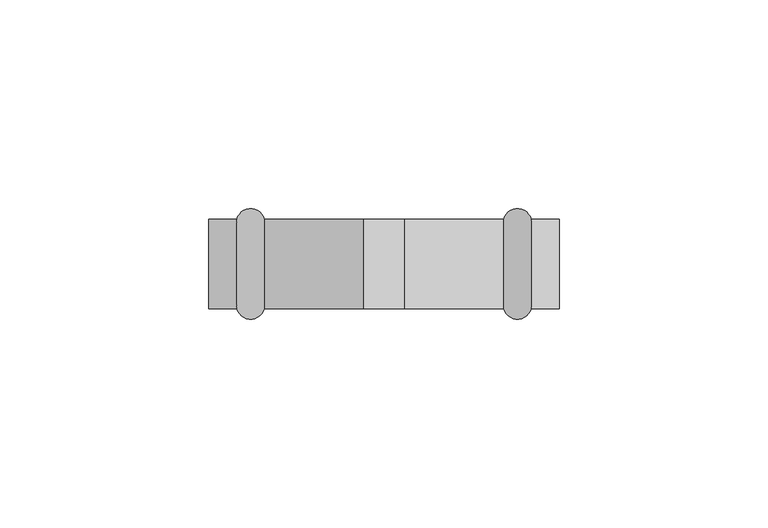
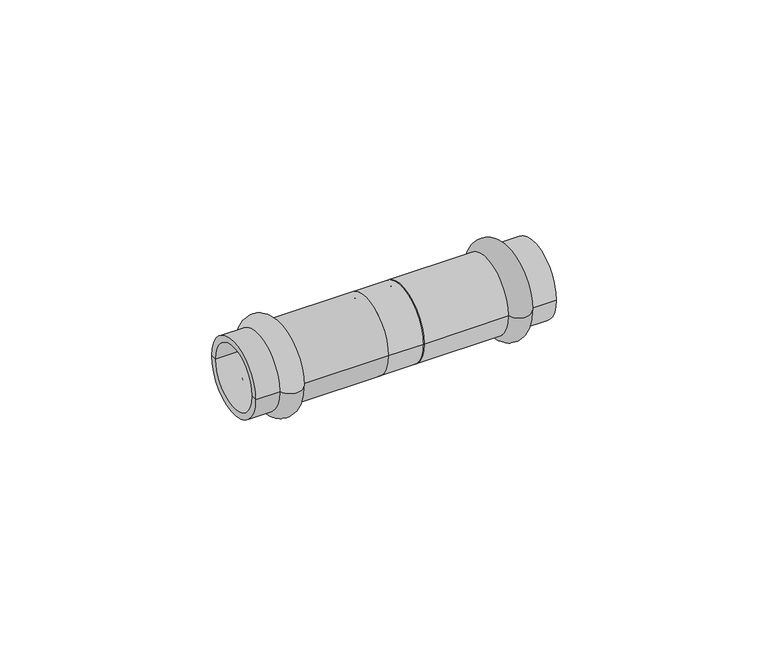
"""IFC4 building model written with IfcOpenShell, lengths in millimetres: pipe fitting geometry, VALTEC_VTi.904.I_Удлинитель_Нержавеющая сталь : VTi.904.I."""

from ifc_helpers import new_model, si_unit, point, frame, origin, origin_2d, place, context, project, spatial, polyline, circle_curve, ellipse_curve, trimmed, segment, composite_curve, outline, extrude, source, transform, mapped, element, save
from ifc_brep_helpers import plane_surface, cylinder_surface, revolved_surface, advanced_brep


def pipe_fitting_2a517387(model_context):
    return source(origin(), model_context, "Body", "SolidModel", [
        advanced_brep(
        [(35.2287193, -10.75, 0.0), (28.6712807, -10.75, 0.0), (28.6712807, 10.75, 0.0), (35.2287193, 10.75, 0.0), (42.0, -10.75, 0.0), (42.0, 10.75, 0.0), (42.0, -9.0, 0.0), (42.0, 9.0, 0.0), (5.0, -9.0, 0.0), (5.0, 9.0, 0.0), (5.0, -10.75, 0.0), (5.0, 10.75, 0.0)],
        [
            (0, 1, circle_curve(frame((31.95, -9.85, 0.0), z_axis=(0.0, 0.0, -1.0), x_axis=(-1.0, 0.0, 0.0)), 3.4)),
            (1, 2, circle_curve(frame((28.6712807, 0.0, 0.0), z_axis=(1.0, 0.0, 0.0), x_axis=(0.0, 1.0, 0.0)), 10.75)),
            (2, 3, circle_curve(frame((31.95, 9.85, 0.0), z_axis=(0.0, 0.0, -1.0), x_axis=(-1.0, 0.0, 0.0)), 3.4)),
            (3, 0, circle_curve(frame((35.2287193, 0.0, 0.0), z_axis=(-1.0, 0.0, 0.0), x_axis=(0.0, 1.0, 0.0)), 10.75)),
            (2, 1, circle_curve(frame((28.6712807, 0.0, 0.0), z_axis=(1.0, 0.0, 0.0), x_axis=(0.0, 1.0, 0.0)), 10.75)),
            (0, 3, circle_curve(frame((35.2287193, 0.0, 0.0), z_axis=(-1.0, 0.0, 0.0), x_axis=(0.0, 1.0, 0.0)), 10.75)),
            (4, 0),
            (3, 5),
            (5, 4, circle_curve(frame((42.0, 0.0, 0.0), z_axis=(-1.0, 0.0, 0.0), x_axis=(0.0, 1.0, 0.0)), 10.75)),
            (4, 5, circle_curve(frame((42.0, 0.0, 0.0), z_axis=(-1.0, 0.0, 0.0), x_axis=(0.0, 1.0, 0.0)), 10.75)),
            (6, 4),
            (5, 7),
            (7, 6, circle_curve(frame((42.0, 0.0, 0.0), z_axis=(-1.0, 0.0, 0.0), x_axis=(0.0, 1.0, 0.0)), 9.0)),
            (6, 7, circle_curve(frame((42.0, 0.0, 0.0), z_axis=(-1.0, 0.0, 0.0), x_axis=(0.0, 1.0, 0.0)), 9.0)),
            (8, 6),
            (7, 9),
            (9, 8, circle_curve(frame((5.0, 0.0, 0.0), z_axis=(-1.0, 0.0, 0.0), x_axis=(0.0, 1.0, 0.0)), 9.0)),
            (8, 9, circle_curve(frame((5.0, 0.0, 0.0), z_axis=(-1.0, 0.0, 0.0), x_axis=(0.0, 1.0, 0.0)), 9.0)),
            (10, 8),
            (9, 11),
            (11, 10, circle_curve(frame((5.0, 0.0, 0.0), z_axis=(-1.0, 0.0, 0.0), x_axis=(0.0, 1.0, 0.0)), 10.75)),
            (10, 11, circle_curve(frame((5.0, 0.0, 0.0), z_axis=(-1.0, 0.0, 0.0), x_axis=(0.0, 1.0, 0.0)), 10.75)),
            (1, 10),
            (11, 2),
        ],
        [
            revolved_surface(trimmed(ellipse_curve(frame((31.95, 9.85, 0.0), z_axis=(0.0, 0.0, -1.0), x_axis=(-1.0, 0.0, 0.0)), 3.4, 3.4), [point((28.6712807, 10.75, 0.0))], [point((35.2287193, 10.75, 0.0))], True, "CARTESIAN"), (45.5364426, 0.0, 0.0), (1.0, 0.0, 0.0)),
            cylinder_surface(frame((45.5364426, 0.0, 0.0), z_axis=(1.0, 0.0, 0.0), x_axis=(0.0, 1.0, 0.0)), 10.75),
            plane_surface(frame((42.0, 0.0, 0.0), z_axis=(1.0, 0.0, 0.0), x_axis=(0.0, 1.0, 0.0))),
            revolved_surface(polyline([(42.0, 9.0, 0.0), (5.0, 9.0, 0.0)]), (45.5364426, 0.0, 0.0), (1.0, 0.0, 0.0)),
            plane_surface(frame((5.0, 0.0, 0.0), z_axis=(-1.0, 0.0, 0.0), x_axis=(0.0, 1.0, 0.0))),
        ],
        [
            (0, [[1, 2, 3, 4]]),
            (0, [[-3, 5, -1, 6]]),
            (1, [[7, -4, 8, 9]]),
            (1, [[-8, -6, -7, 10]]),
            (2, [[11, -9, 12, 13]]),
            (2, [[-12, -10, -11, 14]]),
            (3, [[15, -13, 16, 17]]),
            (3, [[-16, -14, -15, 18]]),
            (4, [[19, -17, 20, 21]]),
            (4, [[-20, -18, -19, 22]]),
            (1, [[23, -21, 24, -2]]),
            (1, [[-24, -22, -23, -5]]),
        ],
    ),
        advanced_brep(
        [(-35.2287193, -10.75, 0.0), (-35.2287193, 10.75, 0.0), (-28.6712807, 10.75, 0.0), (-28.6712807, -10.75, 0.0), (-42.0, -10.75, 0.0), (-42.0, 10.75, 0.0), (-42.0, -9.0, 0.0), (-42.0, 9.0, 0.0), (-5.0, -9.0, 0.0), (-5.0, 9.0, 0.0), (-5.0, -10.75, 0.0), (-5.0, 10.75, 0.0)],
        [
            (0, 1, circle_curve(frame((-35.2287193, 0.0, 0.0), z_axis=(1.0, 0.0, 0.0), x_axis=(0.0, 1.0, 0.0)), 10.75)),
            (1, 2, circle_curve(frame((-31.95, 9.85, 0.0), z_axis=(0.0, 0.0, -1.0), x_axis=(1.0, 0.0, 0.0)), 3.4)),
            (2, 3, circle_curve(frame((-28.6712807, 0.0, 0.0), z_axis=(-1.0, 0.0, 0.0), x_axis=(0.0, 1.0, 0.0)), 10.75)),
            (3, 0, circle_curve(frame((-31.95, -9.85, 0.0), z_axis=(0.0, 0.0, -1.0), x_axis=(1.0, 0.0, 0.0)), 3.4)),
            (1, 0, circle_curve(frame((-35.2287193, 0.0, 0.0), z_axis=(1.0, 0.0, 0.0), x_axis=(0.0, 1.0, 0.0)), 10.75)),
            (3, 2, circle_curve(frame((-28.6712807, 0.0, 0.0), z_axis=(-1.0, 0.0, 0.0), x_axis=(0.0, 1.0, 0.0)), 10.75)),
            (4, 5, circle_curve(frame((-42.0, 0.0, 0.0), z_axis=(1.0, 0.0, 0.0), x_axis=(0.0, 1.0, 0.0)), 10.75)),
            (5, 1),
            (0, 4),
            (5, 4, circle_curve(frame((-42.0, 0.0, 0.0), z_axis=(1.0, 0.0, 0.0), x_axis=(0.0, 1.0, 0.0)), 10.75)),
            (6, 7, circle_curve(frame((-42.0, 0.0, 0.0), z_axis=(1.0, 0.0, 0.0), x_axis=(0.0, 1.0, 0.0)), 9.0)),
            (7, 5),
            (4, 6),
            (7, 6, circle_curve(frame((-42.0, 0.0, 0.0), z_axis=(1.0, 0.0, 0.0), x_axis=(0.0, 1.0, 0.0)), 9.0)),
            (8, 9, circle_curve(frame((-5.0, 0.0, 0.0), z_axis=(1.0, 0.0, 0.0), x_axis=(0.0, 1.0, 0.0)), 9.0)),
            (9, 7),
            (6, 8),
            (9, 8, circle_curve(frame((-5.0, 0.0, 0.0), z_axis=(1.0, 0.0, 0.0), x_axis=(0.0, 1.0, 0.0)), 9.0)),
            (10, 11, circle_curve(frame((-5.0, 0.0, 0.0), z_axis=(1.0, 0.0, 0.0), x_axis=(0.0, 1.0, 0.0)), 10.75)),
            (11, 9),
            (8, 10),
            (11, 10, circle_curve(frame((-5.0, 0.0, 0.0), z_axis=(1.0, 0.0, 0.0), x_axis=(0.0, 1.0, 0.0)), 10.75)),
            (2, 11),
            (10, 3),
        ],
        [
            revolved_surface(trimmed(ellipse_curve(frame((-31.95, 9.85, 0.0), z_axis=(0.0, 0.0, 1.0), x_axis=(1.0, 0.0, 0.0)), 3.4, 3.4), [point((-28.6712807, 10.75, 0.0))], [point((-35.2287193, 10.75, 0.0))], True, "CARTESIAN"), (-45.5364426, 0.0, 0.0), (-1.0, 0.0, 0.0)),
            cylinder_surface(frame((-45.5364426, 0.0, 0.0), z_axis=(-1.0, 0.0, 0.0), x_axis=(0.0, 1.0, 0.0)), 10.75),
            plane_surface(frame((-42.0, 0.0, 0.0), z_axis=(-1.0, 0.0, 0.0), x_axis=(0.0, 1.0, 0.0))),
            revolved_surface(polyline([(-42.0, 9.0, 0.0), (-5.0, 9.0, 0.0)]), (-45.5364426, 0.0, 0.0), (-1.0, 0.0, 0.0)),
            plane_surface(frame((-5.0, 0.0, 0.0), z_axis=(1.0, 0.0, 0.0), x_axis=(0.0, 1.0, 0.0))),
        ],
        [
            (0, [[1, 2, 3, 4]]),
            (0, [[5, -4, 6, -2]]),
            (1, [[7, 8, -1, 9]]),
            (1, [[10, -9, -5, -8]]),
            (2, [[11, 12, -7, 13]]),
            (2, [[14, -13, -10, -12]]),
            (3, [[15, 16, -11, 17]]),
            (3, [[18, -17, -14, -16]]),
            (4, [[19, 20, -15, 21]]),
            (4, [[22, -21, -18, -20]]),
            (1, [[-3, 23, -19, 24]]),
            (1, [[-6, -24, -22, -23]]),
        ],
    ),
        extrude(outline(composite_curve([segment(trimmed(circle_curve(origin_2d(), 10.75), [point((-10.75, 0.0))], [point((10.75, 0.0))], False, "CARTESIAN"), True, "CONTINUOUS"), segment(trimmed(circle_curve(origin_2d(), 10.75), [point((10.75, 0.0))], [point((-10.75, 0.0))], False, "CARTESIAN"), True, "CONTINUOUS")], self_intersect=False), holes=[composite_curve([segment(trimmed(circle_curve(origin_2d(), 9.0), [point((-9.0, 0.0))], [point((9.0, 0.0))], True, "CARTESIAN"), True, "CONTINUOUS"), segment(trimmed(circle_curve(origin_2d(), 9.0), [point((9.0, 0.0))], [point((-9.0, 0.0))], True, "CARTESIAN"), True, "CONTINUOUS")], self_intersect=False)]), frame((-5.0, 0.0, 0.0), z_axis=(1.0, 0.0, 0.0), x_axis=(0.0, 1.0, 0.0)), (0.0, 0.0, 1.0), 10.0),
    ])


if __name__ == "__main__":
    model = new_model("IFC4")
    model_context = context("Model", 3, world=origin())
    ifc_project = project(units=[si_unit("LENGTHUNIT", "METRE", prefix="MILLI")], contexts=[model_context])
    site = spatial("IfcSite", under=ifc_project)
    building = spatial("IfcBuilding", under=site)
    placement = place(None, origin())
    pipe_fitting_shape = pipe_fitting_2a517387(model_context)
    element("IfcPipeFitting", 1, ObjectType="VALTEC_VTi.904.I_Удлинитель_Нержавеющая сталь : VTi.904.I", at=placement, inside=building, context=model_context, shape_type="MappedRepresentation", body=[
        mapped(pipe_fitting_shape, transform((0.0, 0.0, 0.0), x_axis=(1.0, 0.0, 0.0), y_axis=(0.0, 1.0, 0.0), z_axis=(0.0, 0.0, 1.0))),
    ])
    save(model, "model.ifc")
